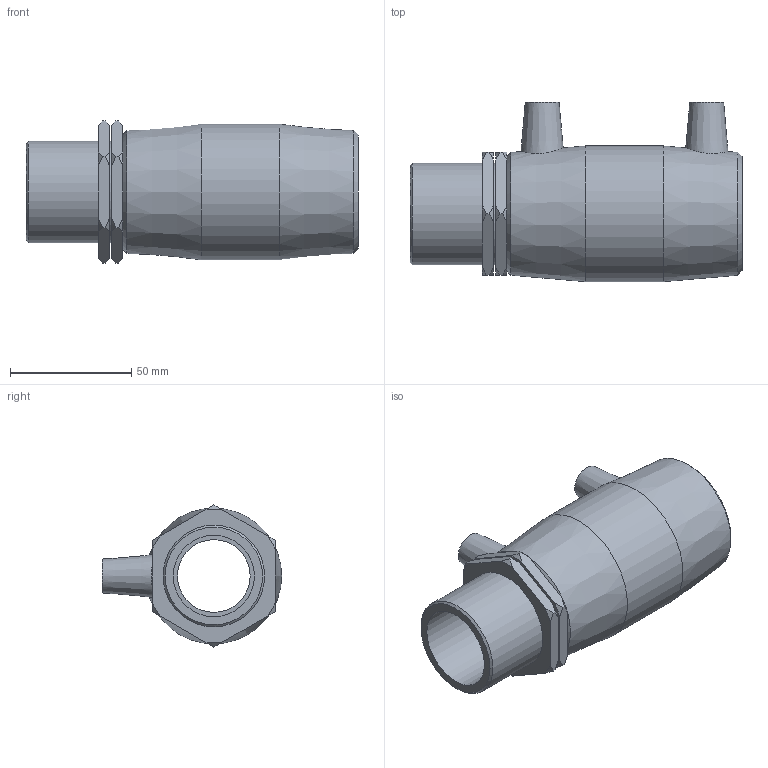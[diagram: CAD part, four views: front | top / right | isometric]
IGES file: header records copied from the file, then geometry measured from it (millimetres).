
Global section: file name: 497104040013.ipt; native system: Autodesk Inventor 2015; preprocessor: unknown; author: KIM; date: 20171106.094427; units: millimetre
Bounding box: 137 x 74 x 58.67 mm (x, y, z)
Volume: 161615.2 mm3; surface area: 47792.2 mm2
Topology: 1 solids, 2 shells, 75 faces, 186 edges, 126 vertices
Faces by surface type: cone 31, plane 29, revolution 8, cylinder 7
Full cylindrical faces by diameter (mm): 4 x2, 40 x2, 41.91 x2, 56 x1
